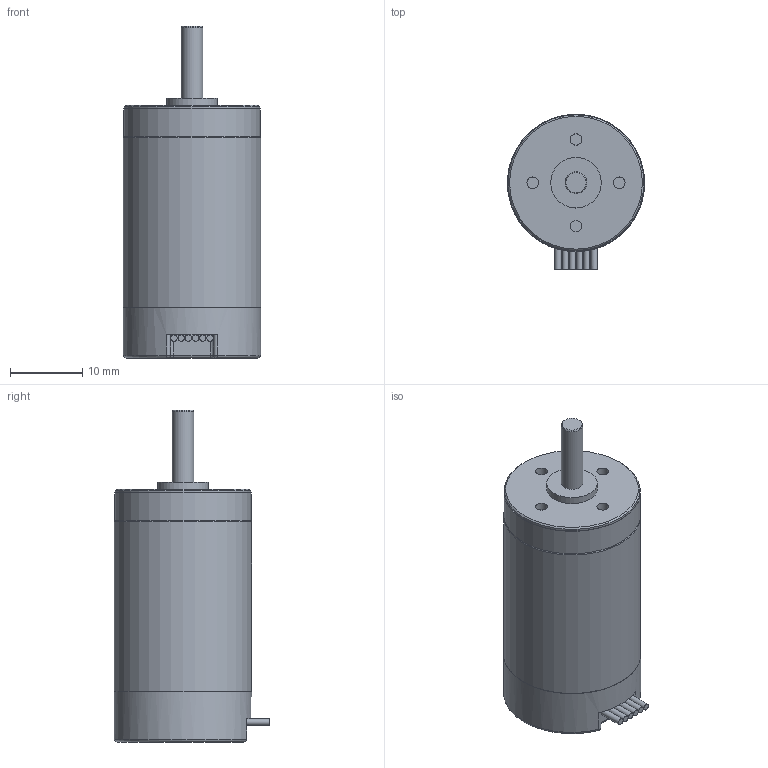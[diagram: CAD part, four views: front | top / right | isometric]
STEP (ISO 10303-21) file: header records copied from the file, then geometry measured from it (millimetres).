
FILE_DESCRIPTION(/* description */ (''),/* implementation_level */ '2;1');
FILE_NAME(/* name */ '1935BRC.stp',/* time_stamp */ '2016-10-24T15:10:36+02:00',/* author */ ('DR. FRITZ FAULHABER GmbH & Co. KG'),/* organization */ ('DR. FRITZ FAULHABER GmbH & Co. KG'),/* preprocessor_version */ 'ST-DEVELOPER v16',/* originating_system */ 'SIEMENS PLM Software NX 10.0',/* authorisation */ '');
FILE_SCHEMA (('AUTOMOTIVE_DESIGN { 1 0 10303 214 3 1 1 1 }'));
Length unit declared in the file: millimetre
Products named in the file (1): FG_part6
Bounding box: 19 x 21.5 x 46 mm (x, y, z)
Volume: 9978.7 mm3; surface area: 2880.2 mm2
Topology: 1 solids, 1 shells, 63 faces, 145 edges, 91 vertices
Faces by surface type: cylinder 28, plane 27, cone 3, torus 3, sphere 2
Full cylindrical faces by diameter (mm): 1.6 x4, 3 x1, 7 x1, 18.8 x1, 18.9 x1, 18.99 x1, 19 x2
Entity records: 1785 total; most frequent: CARTESIAN_POINT 346, DIRECTION 319, ORIENTED_EDGE 254, AXIS2_PLACEMENT_3D 130, EDGE_CURVE 127, VERTEX_POINT 89, EDGE_LOOP 86, CIRCLE 66
